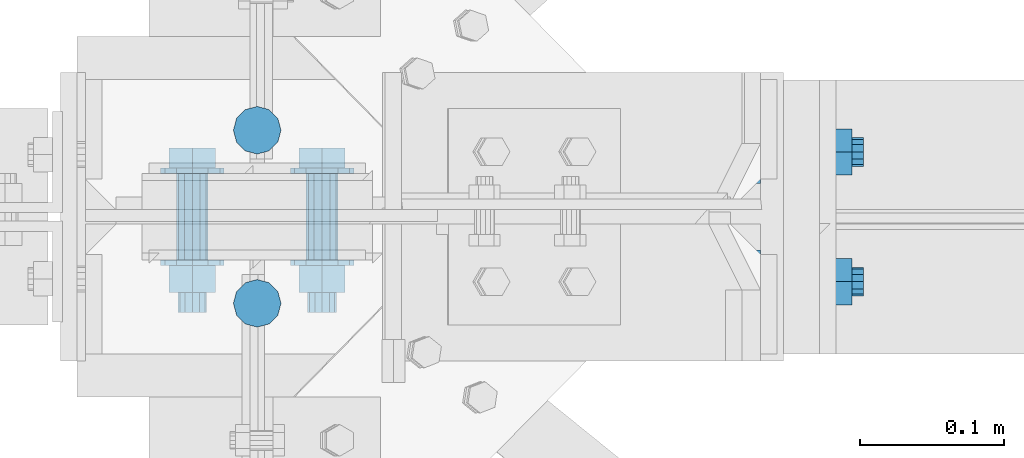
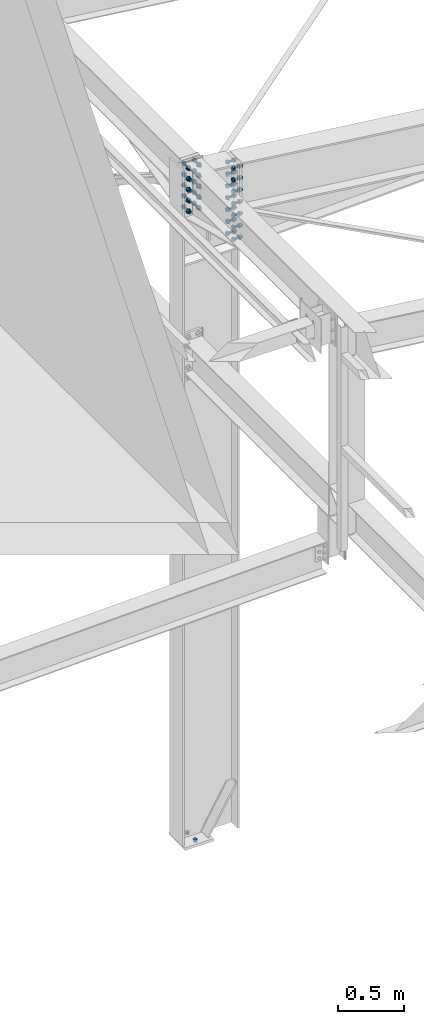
# One storey, part 93 of 3134: 3 mechanical fasteners, 3 elements without a shape of their own.
"""IFC2X3 building model written with IfcOpenShell, lengths in millimetres."""

from ifc_helpers import new_model, si_unit, frame, origin_with_axes, place, context, subcontext, project, spatial, faceted_brep, source, transform, mapped, material, type_object, element, aggregate, save


model = new_model("IFC2X3")

# Units and contexts
model_context = context("Model", 3, precision=1e-05, world=origin_with_axes())
body_context = subcontext(model_context, "Body", "Model", "MODEL_VIEW")
ifc_project = project(units=[si_unit("LENGTHUNIT", "METRE", prefix="MILLI"), si_unit("AREAUNIT", "SQUARE_METRE"), si_unit("VOLUMEUNIT", "CUBIC_METRE"), si_unit("MASSUNIT", "GRAM", prefix="KILO"), si_unit("TIMEUNIT", "SECOND"), si_unit("PLANEANGLEUNIT", "RADIAN"), si_unit("SOLIDANGLEUNIT", "STERADIAN"), si_unit("THERMODYNAMICTEMPERATUREUNIT", "DEGREE_CELSIUS"), si_unit("LUMINOUSINTENSITYUNIT", "LUMEN")], contexts=[model_context])

# Site, building, storey
site_placement = place(None, origin_with_axes())
site = spatial("IfcSite", under=ifc_project, at=site_placement, CompositionType="ELEMENT")
building_placement = place(site_placement, origin_with_axes())
building = spatial("IfcBuilding", under=site, at=building_placement, Name="Undefined", CompositionType="ELEMENT")
storey_placement = place(building_placement, origin_with_axes())
storey = spatial("IfcBuildingStorey", under=building, at=storey_placement, Name="Undefined", CompositionType="ELEMENT", Elevation=0.0)

# Assembly, mechanical fastener
assembly_1_placement = place(storey_placement, origin_with_axes())
assembly_1 = element("IfcElementAssembly", 1, at=assembly_1_placement, inside=storey, Name="IPE450", AssemblyPlace="NOTDEFINED", PredefinedType="RIGID_FRAME")
ifc_material_1 = material(Name="HR10.9")
mechanical_fastener_type = type_object("IfcMechanicalFastenerType", Name="Bolt assembly")
shared_shape_1 = source(origin_with_axes(), body_context, "Body", "Brep", [
    faceted_brep([(18.475208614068, -33.599999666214, 0.0), (9.23760430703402, -33.599999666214, 16.0), (-9.23760430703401, -33.599999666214, 16.0), (-18.475208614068, -33.599999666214, 2.2625605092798e-15), (-9.23760430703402, -33.599999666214, -16.0), (9.237604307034, -33.599999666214, -16.0), (9.237604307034, -19.7000000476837, -16.0), (-9.23760430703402, -19.7000000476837, -16.0), (-18.475208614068, -19.7000000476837, 2.2625605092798e-15), (-9.23760430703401, -19.7000000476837, 16.0), (9.23760430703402, -19.7000000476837, 16.0), (18.475208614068, -19.7000000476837, 0.0), (10.0, -19.7000000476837, 0.0), (8.66025403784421, -19.7000000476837, 5.0000000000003), (4.9999999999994, -19.7000000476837, 8.66025403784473), (-1.03633598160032e-12, -19.7000000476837, 10.0), (-5.00000000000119, -19.7000000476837, 8.6602540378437), (-8.66025403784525, -19.7000000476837, 4.99999999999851), (-10.0, -19.7000000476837, -2.07267196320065e-12), (-8.66025403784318, -19.7000000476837, -5.00000000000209), (-4.99999999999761, -19.7000000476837, -8.66025403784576), (3.09790571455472e-12, -19.7000000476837, -10.0), (5.00000000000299, -19.7000000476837, -8.66025403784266), (8.66025403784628, -19.7000000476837, -4.99999999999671), (8.66025403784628, 55.2999999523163, -4.99999999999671), (5.00000000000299, 55.2999999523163, -8.66025403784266), (3.09790571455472e-12, 55.2999999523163, -10.0), (-4.99999999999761, 55.2999999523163, -8.66025403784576), (-8.66025403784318, 55.2999999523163, -5.00000000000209), (-10.0, 55.2999999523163, -2.07267196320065e-12), (-8.66025403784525, 55.2999999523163, 4.99999999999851), (-5.00000000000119, 55.2999999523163, 8.6602540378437), (-1.03633598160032e-12, 55.2999999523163, 10.0), (4.9999999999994, 55.2999999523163, 8.66025403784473), (8.66025403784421, 55.2999999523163, 5.0000000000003), (10.0, 55.2999999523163, 0.0), (22.0, -19.7000000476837, 0.0), (19.0525588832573, -19.7000000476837, 11.0000000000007), (10.9999999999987, -19.7000000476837, 19.0525588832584), (-2.27993915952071e-12, -19.7000000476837, 22.0), (-11.0000000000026, -19.7000000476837, 19.0525588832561), (-19.0525588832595, -19.7000000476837, 10.9999999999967), (-22.0, -19.7000000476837, -4.55987831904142e-12), (-19.052558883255, -19.7000000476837, -11.0000000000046), (-10.9999999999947, -19.7000000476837, -19.0525588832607), (6.81539257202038e-12, -19.7000000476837, -22.0), (11.0000000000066, -19.7000000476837, -19.0525588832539), (19.0525588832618, -19.7000000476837, -10.9999999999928), (19.0525588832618, -16.0, -10.9999999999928), (11.0000000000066, -16.0, -19.0525588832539), (6.81539257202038e-12, -16.0, -22.0), (-10.9999999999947, -16.0, -19.0525588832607), (-19.052558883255, -16.0, -11.0000000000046), (-22.0, -16.0, -4.55987831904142e-12), (-19.0525588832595, -16.0, 10.9999999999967), (-11.0000000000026, -16.0, 19.0525588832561), (-2.27993915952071e-12, -16.0, 22.0), (10.9999999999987, -16.0, 19.0525588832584), (19.0525588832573, -16.0, 11.0000000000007), (22.0, -16.0, 0.0), (22.0, 25.0, 0.0), (19.0525588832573, 25.0, 11.0000000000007), (10.9999999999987, 25.0, 19.0525588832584), (-2.27993915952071e-12, 25.0, 22.0), (-11.0000000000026, 25.0, 19.0525588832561), (-19.0525588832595, 25.0, 10.9999999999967), (-22.0, 25.0, -4.55987831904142e-12), (-19.052558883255, 25.0, -11.0000000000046), (-10.9999999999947, 25.0, -19.0525588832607), (6.81539257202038e-12, 25.0, -22.0), (11.0000000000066, 25.0, -19.0525588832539), (19.0525588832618, 25.0, -10.9999999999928), (19.0525588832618, 28.7000000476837, -10.9999999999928), (11.0000000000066, 28.7000000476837, -19.0525588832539), (6.81539257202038e-12, 28.7000000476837, -22.0), (-10.9999999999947, 28.7000000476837, -19.0525588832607), (-19.052558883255, 28.7000000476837, -11.0000000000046), (-22.0, 28.7000000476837, -4.55987831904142e-12), (-19.0525588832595, 28.7000000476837, 10.9999999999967), (-11.0000000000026, 28.7000000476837, 19.0525588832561), (-2.27993915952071e-12, 28.7000000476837, 22.0), (10.9999999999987, 28.7000000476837, 19.0525588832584), (19.0525588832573, 28.7000000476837, 11.0000000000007), (22.0, 28.7000000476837, 0.0), (18.475208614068, 28.7000000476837, 0.0), (9.23760430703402, 28.7000000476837, 16.0), (-9.23760430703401, 28.7000000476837, 16.0), (-18.475208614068, 28.7000000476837, 2.2625605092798e-15), (-9.23760430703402, 28.7000000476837, -16.0), (9.237604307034, 28.7000000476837, -16.0), (9.237604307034, 47.2499992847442, -16.0), (-9.23760430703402, 47.2499992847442, -16.0), (-18.475208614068, 47.2499992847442, 2.2625605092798e-15), (-9.23760430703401, 47.2499992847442, 16.0), (9.23760430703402, 47.2499992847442, 16.0), (18.475208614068, 47.2499992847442, 0.0)], [[[0, 1, 2, 3, 4, 5]], [[6, 7, 8, 9, 10, 11]], [[0, 11, 10, 1]], [[1, 10, 9, 2]], [[2, 9, 8, 3]], [[3, 8, 7, 4]], [[4, 7, 6, 5]], [[5, 6, 11, 0]], [[12, 13, 14, 15, 16, 17, 18, 19, 20, 21, 22, 23]], [[24, 25, 26, 27, 28, 29, 30, 31, 32, 33, 34, 35]], [[12, 35, 34, 13]], [[13, 34, 33, 14]], [[14, 33, 32, 15]], [[15, 32, 31, 16]], [[16, 31, 30, 17]], [[17, 30, 29, 18]], [[18, 29, 28, 19]], [[19, 28, 27, 20]], [[20, 27, 26, 21]], [[21, 26, 25, 22]], [[22, 25, 24, 23]], [[23, 24, 35, 12]], [[36, 37, 38, 39, 40, 41, 42, 43, 44, 45, 46, 47]], [[48, 49, 50, 51, 52, 53, 54, 55, 56, 57, 58, 59]], [[36, 59, 58, 37]], [[37, 58, 57, 38]], [[38, 57, 56, 39]], [[39, 56, 55, 40]], [[40, 55, 54, 41]], [[41, 54, 53, 42]], [[42, 53, 52, 43]], [[43, 52, 51, 44]], [[44, 51, 50, 45]], [[45, 50, 49, 46]], [[46, 49, 48, 47]], [[47, 48, 59, 36]], [[60, 61, 62, 63, 64, 65, 66, 67, 68, 69, 70, 71]], [[72, 73, 74, 75, 76, 77, 78, 79, 80, 81, 82, 83]], [[60, 83, 82, 61]], [[61, 82, 81, 62]], [[62, 81, 80, 63]], [[63, 80, 79, 64]], [[64, 79, 78, 65]], [[65, 78, 77, 66]], [[66, 77, 76, 67]], [[67, 76, 75, 68]], [[68, 75, 74, 69]], [[69, 74, 73, 70]], [[70, 73, 72, 71]], [[71, 72, 83, 60]], [[84, 85, 86, 87, 88, 89]], [[90, 91, 92, 93, 94, 95]], [[84, 95, 94, 85]], [[85, 94, 93, 86]], [[86, 93, 92, 87]], [[87, 92, 91, 88]], [[88, 91, 90, 89]], [[89, 90, 95, 84]]]),
    faceted_brep([(11.0, -15.9, 0.0), (9.52627944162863, -15.9, 5.50000000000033), (5.49999999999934, -15.9, 9.5262794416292), (-1.13996957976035e-12, -15.9, 11.0), (-5.50000000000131, -15.9, 9.52627944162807), (-9.52627944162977, -15.9, 5.49999999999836), (-11.0, -15.9, -2.27993915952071e-12), (-9.5262794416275, -15.9, -5.5000000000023), (-5.49999999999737, -15.9, -9.52627944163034), (3.40769628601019e-12, -15.9, -11.0), (5.50000000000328, -15.9, -9.52627944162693), (9.52627944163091, -15.9, -5.49999999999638), (9.52627944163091, 0.0999999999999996, -5.49999999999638), (5.50000000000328, 0.0999999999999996, -9.52627944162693), (3.40769628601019e-12, 0.0999999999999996, -11.0), (-5.49999999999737, 0.0999999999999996, -9.52627944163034), (-9.5262794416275, 0.0999999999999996, -5.5000000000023), (-11.0, 0.0999999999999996, -2.27993915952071e-12), (-9.52627944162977, 0.0999999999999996, 5.49999999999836), (-5.50000000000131, 0.0999999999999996, 9.52627944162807), (-1.13996957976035e-12, 0.0999999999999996, 11.0), (5.49999999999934, 0.0999999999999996, 9.5262794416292), (9.52627944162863, 0.0999999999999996, 5.50000000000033), (11.0, 0.0999999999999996, 0.0), (11.0, -0.1, 0.0), (9.52627944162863, -0.1, 5.50000000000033), (5.49999999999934, -0.1, 9.5262794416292), (-1.13996957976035e-12, -0.1, 11.0), (-5.50000000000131, -0.1, 9.52627944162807), (-9.52627944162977, -0.1, 5.49999999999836), (-11.0, -0.1, -2.27993915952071e-12), (-9.5262794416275, -0.1, -5.5000000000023), (-5.49999999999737, -0.1, -9.52627944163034), (3.40769628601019e-12, -0.1, -11.0), (5.50000000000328, -0.1, -9.52627944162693), (9.52627944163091, -0.1, -5.49999999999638), (9.52627944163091, 25.0, -5.49999999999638), (5.50000000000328, 25.0, -9.52627944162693), (3.40769628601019e-12, 25.0, -11.0), (-5.49999999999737, 25.0, -9.52627944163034), (-9.5262794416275, 25.0, -5.5000000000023), (-11.0, 25.0, -2.27993915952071e-12), (-9.52627944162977, 25.0, 5.49999999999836), (-5.50000000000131, 25.0, 9.52627944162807), (-1.13996957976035e-12, 25.0, 11.0), (5.49999999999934, 25.0, 9.5262794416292), (9.52627944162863, 25.0, 5.50000000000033), (11.0, 25.0, 0.0)], [[[0, 1, 2, 3, 4, 5, 6, 7, 8, 9, 10, 11]], [[12, 13, 14, 15, 16, 17, 18, 19, 20, 21, 22, 23]], [[0, 23, 22, 1]], [[1, 22, 21, 2]], [[2, 21, 20, 3]], [[3, 20, 19, 4]], [[4, 19, 18, 5]], [[5, 18, 17, 6]], [[6, 17, 16, 7]], [[7, 16, 15, 8]], [[8, 15, 14, 9]], [[9, 14, 13, 10]], [[10, 13, 12, 11]], [[11, 12, 23, 0]], [[24, 25, 26, 27, 28, 29, 30, 31, 32, 33, 34, 35]], [[36, 37, 38, 39, 40, 41, 42, 43, 44, 45, 46, 47]], [[24, 47, 46, 25]], [[25, 46, 45, 26]], [[26, 45, 44, 27]], [[27, 44, 43, 28]], [[28, 43, 42, 29]], [[29, 42, 41, 30]], [[30, 41, 40, 31]], [[31, 40, 39, 32]], [[32, 39, 38, 33]], [[33, 38, 37, 34]], [[34, 37, 36, 35]], [[35, 36, 47, 24]]]),
])
mechanical_fastener_1_placement = place(assembly_1_placement, frame((21215.0, 19450.0, 5711.36541521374), z_axis=(0.0, -1.0, 0.0), x_axis=(0.0, 0.0, -1.0)))
mechanical_fastener_1 = element("IfcMechanicalFastener", 2, at=mechanical_fastener_1_placement, type_object=mechanical_fastener_type, material=ifc_material_1, Name="Bolt assembly", NominalDiameter=20.0, NominalLength=75.0, context=body_context, shape_type="MappedRepresentation", body=[
    mapped(shared_shape_1, transform((0.0, 0.0, -45.0))),
    mapped(shared_shape_1, transform((0.0, 0.0, 45.0))),
    mapped(shared_shape_1, transform((110.0, 0.0, -45.0))),
    mapped(shared_shape_1, transform((110.0, 0.0, 45.0))),
    mapped(shared_shape_1, transform((220.0, 0.0, -45.0))),
    mapped(shared_shape_1, transform((220.0, 0.0, 45.0))),
    mapped(shared_shape_1, transform((330.0, 0.0, -45.0))),
    mapped(shared_shape_1, transform((330.0, 0.0, 45.0))),
    mapped(shared_shape_1, transform((440.0, 0.0, -45.0))),
    mapped(shared_shape_1, transform((440.0, 0.0, 45.0))),
    mapped(shared_shape_1, transform((550.0, 0.0, -45.0))),
    mapped(shared_shape_1, transform((550.0, 0.0, 45.0))),
    mapped(shared_shape_1, transform((660.0, 0.0, -45.0))),
    mapped(shared_shape_1, transform((660.0, 0.0, 45.0))),
])
aggregate(assembly_1, [mechanical_fastener_1])

assembly_2_placement = place(storey_placement, origin_with_axes())
assembly_2 = element("IfcElementAssembly", 3, at=assembly_2_placement, inside=storey, Name="300", AssemblyPlace="NOTDEFINED", PredefinedType="RIGID_FRAME")
shared_shape_2 = source(origin_with_axes(), body_context, "Body", "Brep", [
    faceted_brep([(18.475208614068, -47.6999994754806, 0.0), (9.23760430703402, -47.6999994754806, 16.0), (-9.23760430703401, -47.6999994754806, 16.0), (-18.475208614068, -47.6999994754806, 2.2625605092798e-15), (-9.23760430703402, -47.6999994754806, -16.0), (9.237604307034, -47.6999994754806, -16.0), (9.237604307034, -33.7999998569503, -16.0), (-9.23760430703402, -33.7999998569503, -16.0), (-18.475208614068, -33.7999998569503, 2.2625605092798e-15), (-9.23760430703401, -33.7999998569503, 16.0), (9.23760430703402, -33.7999998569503, 16.0), (18.475208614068, -33.7999998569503, 0.0), (10.0, -33.7999998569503, 0.0), (8.66025403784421, -33.7999998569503, 5.0000000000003), (4.9999999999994, -33.7999998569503, 8.66025403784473), (-1.03633598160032e-12, -33.7999998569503, 10.0), (-5.00000000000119, -33.7999998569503, 8.6602540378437), (-8.66025403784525, -33.7999998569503, 4.99999999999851), (-10.0, -33.7999998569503, -2.07267196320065e-12), (-8.66025403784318, -33.7999998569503, -5.00000000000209), (-4.99999999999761, -33.7999998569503, -8.66025403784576), (3.09790571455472e-12, -33.7999998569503, -10.0), (5.00000000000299, -33.7999998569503, -8.66025403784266), (8.66025403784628, -33.7999998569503, -4.99999999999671), (8.66025403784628, 66.2000001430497, -4.99999999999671), (5.00000000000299, 66.2000001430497, -8.66025403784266), (3.09790571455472e-12, 66.2000001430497, -10.0), (-4.99999999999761, 66.2000001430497, -8.66025403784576), (-8.66025403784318, 66.2000001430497, -5.00000000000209), (-10.0, 66.2000001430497, -2.07267196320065e-12), (-8.66025403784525, 66.2000001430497, 4.99999999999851), (-5.00000000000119, 66.2000001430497, 8.6602540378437), (-1.03633598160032e-12, 66.2000001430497, 10.0), (4.9999999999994, 66.2000001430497, 8.66025403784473), (8.66025403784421, 66.2000001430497, 5.0000000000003), (10.0, 66.2000001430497, 0.0), (22.0, -33.7999998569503, 0.0), (19.0525588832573, -33.7999998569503, 11.0000000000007), (10.9999999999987, -33.7999998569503, 19.0525588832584), (-2.27993915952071e-12, -33.7999998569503, 22.0), (-11.0000000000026, -33.7999998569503, 19.0525588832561), (-19.0525588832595, -33.7999998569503, 10.9999999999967), (-22.0, -33.7999998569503, -4.55987831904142e-12), (-19.052558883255, -33.7999998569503, -11.0000000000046), (-10.9999999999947, -33.7999998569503, -19.0525588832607), (6.81539257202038e-12, -33.7999998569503, -22.0), (11.0000000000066, -33.7999998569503, -19.0525588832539), (19.0525588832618, -33.7999998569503, -10.9999999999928), (19.0525588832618, -30.0999998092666, -10.9999999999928), (11.0000000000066, -30.0999998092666, -19.0525588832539), (6.81539257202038e-12, -30.0999998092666, -22.0), (-10.9999999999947, -30.0999998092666, -19.0525588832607), (-19.052558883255, -30.0999998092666, -11.0000000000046), (-22.0, -30.0999998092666, -4.55987831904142e-12), (-19.0525588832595, -30.0999998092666, 10.9999999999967), (-11.0000000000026, -30.0999998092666, 19.0525588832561), (-2.27993915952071e-12, -30.0999998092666, 22.0), (10.9999999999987, -30.0999998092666, 19.0525588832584), (19.0525588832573, -30.0999998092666, 11.0000000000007), (22.0, -30.0999998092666, 0.0), (22.0, 30.0999999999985, 0.0), (19.0525588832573, 30.0999999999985, 11.0000000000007), (10.9999999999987, 30.0999999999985, 19.0525588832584), (-2.27993915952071e-12, 30.0999999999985, 22.0), (-11.0000000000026, 30.0999999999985, 19.0525588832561), (-19.0525588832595, 30.0999999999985, 10.9999999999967), (-22.0, 30.0999999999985, -4.55987831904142e-12), (-19.052558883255, 30.0999999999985, -11.0000000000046), (-10.9999999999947, 30.0999999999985, -19.0525588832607), (6.81539257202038e-12, 30.0999999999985, -22.0), (11.0000000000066, 30.0999999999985, -19.0525588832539), (19.0525588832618, 30.0999999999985, -10.9999999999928), (19.0525588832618, 33.8000000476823, -10.9999999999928), (11.0000000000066, 33.8000000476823, -19.0525588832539), (6.81539257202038e-12, 33.8000000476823, -22.0), (-10.9999999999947, 33.8000000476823, -19.0525588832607), (-19.052558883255, 33.8000000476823, -11.0000000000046), (-22.0, 33.8000000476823, -4.55987831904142e-12), (-19.0525588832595, 33.8000000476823, 10.9999999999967), (-11.0000000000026, 33.8000000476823, 19.0525588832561), (-2.27993915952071e-12, 33.8000000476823, 22.0), (10.9999999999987, 33.8000000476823, 19.0525588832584), (19.0525588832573, 33.8000000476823, 11.0000000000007), (22.0, 33.8000000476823, 0.0), (18.475208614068, 33.8000000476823, 0.0), (9.23760430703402, 33.8000000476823, 16.0), (-9.23760430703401, 33.8000000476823, 16.0), (-18.475208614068, 33.8000000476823, 2.2625605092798e-15), (-9.23760430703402, 33.8000000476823, -16.0), (9.237604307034, 33.8000000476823, -16.0), (9.237604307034, 52.3499992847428, -16.0), (-9.23760430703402, 52.3499992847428, -16.0), (-18.475208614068, 52.3499992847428, 2.2625605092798e-15), (-9.23760430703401, 52.3499992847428, 16.0), (9.23760430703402, 52.3499992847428, 16.0), (18.475208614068, 52.3499992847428, 0.0)], [[[0, 1, 2, 3, 4, 5]], [[6, 7, 8, 9, 10, 11]], [[0, 11, 10, 1]], [[1, 10, 9, 2]], [[2, 9, 8, 3]], [[3, 8, 7, 4]], [[4, 7, 6, 5]], [[5, 6, 11, 0]], [[12, 13, 14, 15, 16, 17, 18, 19, 20, 21, 22, 23]], [[24, 25, 26, 27, 28, 29, 30, 31, 32, 33, 34, 35]], [[12, 35, 34, 13]], [[13, 34, 33, 14]], [[14, 33, 32, 15]], [[15, 32, 31, 16]], [[16, 31, 30, 17]], [[17, 30, 29, 18]], [[18, 29, 28, 19]], [[19, 28, 27, 20]], [[20, 27, 26, 21]], [[21, 26, 25, 22]], [[22, 25, 24, 23]], [[23, 24, 35, 12]], [[36, 37, 38, 39, 40, 41, 42, 43, 44, 45, 46, 47]], [[48, 49, 50, 51, 52, 53, 54, 55, 56, 57, 58, 59]], [[36, 59, 58, 37]], [[37, 58, 57, 38]], [[38, 57, 56, 39]], [[39, 56, 55, 40]], [[40, 55, 54, 41]], [[41, 54, 53, 42]], [[42, 53, 52, 43]], [[43, 52, 51, 44]], [[44, 51, 50, 45]], [[45, 50, 49, 46]], [[46, 49, 48, 47]], [[47, 48, 59, 36]], [[60, 61, 62, 63, 64, 65, 66, 67, 68, 69, 70, 71]], [[72, 73, 74, 75, 76, 77, 78, 79, 80, 81, 82, 83]], [[60, 83, 82, 61]], [[61, 82, 81, 62]], [[62, 81, 80, 63]], [[63, 80, 79, 64]], [[64, 79, 78, 65]], [[65, 78, 77, 66]], [[66, 77, 76, 67]], [[67, 76, 75, 68]], [[68, 75, 74, 69]], [[69, 74, 73, 70]], [[70, 73, 72, 71]], [[71, 72, 83, 60]], [[84, 85, 86, 87, 88, 89]], [[90, 91, 92, 93, 94, 95]], [[84, 95, 94, 85]], [[85, 94, 93, 86]], [[86, 93, 92, 87]], [[87, 92, 91, 88]], [[88, 91, 90, 89]], [[89, 90, 95, 84]]]),
    faceted_brep([(11.0, -5.09999980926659, 0.0), (9.52627944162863, -5.09999980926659, 5.50000000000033), (5.49999999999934, -5.09999980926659, 9.5262794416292), (-1.13996957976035e-12, -5.09999980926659, 11.0), (-5.50000000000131, -5.09999980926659, 9.52627944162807), (-9.52627944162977, -5.09999980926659, 5.49999999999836), (-11.0, -5.09999980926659, -2.27993915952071e-12), (-9.5262794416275, -5.09999980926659, -5.5000000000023), (-5.49999999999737, -5.09999980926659, -9.52627944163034), (3.40769628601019e-12, -5.09999980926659, -11.0), (5.50000000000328, -5.09999980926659, -9.52627944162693), (9.52627944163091, -5.09999980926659, -5.49999999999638), (9.52627944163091, 5.09999999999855, -5.49999999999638), (5.50000000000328, 5.09999999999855, -9.52627944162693), (3.40769628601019e-12, 5.09999999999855, -11.0), (-5.49999999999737, 5.09999999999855, -9.52627944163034), (-9.5262794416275, 5.09999999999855, -5.5000000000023), (-11.0, 5.09999999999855, -2.27993915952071e-12), (-9.52627944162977, 5.09999999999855, 5.49999999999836), (-5.50000000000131, 5.09999999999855, 9.52627944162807), (-1.13996957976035e-12, 5.09999999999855, 11.0), (5.49999999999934, 5.09999999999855, 9.5262794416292), (9.52627944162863, 5.09999999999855, 5.50000000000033), (11.0, 5.09999999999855, 0.0), (11.0, -29.9999998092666, 0.0), (9.52627944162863, -29.9999998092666, 5.50000000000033), (5.49999999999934, -29.9999998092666, 9.5262794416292), (-1.13996957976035e-12, -29.9999998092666, 11.0), (-5.50000000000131, -29.9999998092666, 9.52627944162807), (-9.52627944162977, -29.9999998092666, 5.49999999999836), (-11.0, -29.9999998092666, -2.27993915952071e-12), (-9.5262794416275, -29.9999998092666, -5.5000000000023), (-5.49999999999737, -29.9999998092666, -9.52627944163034), (3.40769628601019e-12, -29.9999998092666, -11.0), (5.50000000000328, -29.9999998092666, -9.52627944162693), (9.52627944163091, -29.9999998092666, -5.49999999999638), (9.52627944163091, -4.99999980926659, -5.49999999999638), (5.50000000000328, -4.99999980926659, -9.52627944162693), (3.40769628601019e-12, -4.99999980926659, -11.0), (-5.49999999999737, -4.99999980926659, -9.52627944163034), (-9.5262794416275, -4.99999980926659, -5.5000000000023), (-11.0, -4.99999980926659, -2.27993915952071e-12), (-9.52627944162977, -4.99999980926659, 5.49999999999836), (-5.50000000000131, -4.99999980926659, 9.52627944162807), (-1.13996957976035e-12, -4.99999980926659, 11.0), (5.49999999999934, -4.99999980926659, 9.5262794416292), (9.52627944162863, -4.99999980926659, 5.50000000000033), (11.0, -4.99999980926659, 0.0), (11.0, 4.99999999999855, 0.0), (9.52627944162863, 4.99999999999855, 5.50000000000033), (5.49999999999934, 4.99999999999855, 9.5262794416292), (-1.13996957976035e-12, 4.99999999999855, 11.0), (-5.50000000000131, 4.99999999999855, 9.52627944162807), (-9.52627944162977, 4.99999999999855, 5.49999999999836), (-11.0, 4.99999999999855, -2.27993915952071e-12), (-9.5262794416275, 4.99999999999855, -5.5000000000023), (-5.49999999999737, 4.99999999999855, -9.52627944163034), (3.40769628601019e-12, 4.99999999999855, -11.0), (5.50000000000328, 4.99999999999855, -9.52627944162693), (9.52627944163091, 4.99999999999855, -5.49999999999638), (9.52627944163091, 30.0999999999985, -5.49999999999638), (5.50000000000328, 30.0999999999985, -9.52627944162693), (3.40769628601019e-12, 30.0999999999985, -11.0), (-5.49999999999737, 30.0999999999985, -9.52627944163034), (-9.5262794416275, 30.0999999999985, -5.5000000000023), (-11.0, 30.0999999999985, -2.27993915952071e-12), (-9.52627944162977, 30.0999999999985, 5.49999999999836), (-5.50000000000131, 30.0999999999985, 9.52627944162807), (-1.13996957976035e-12, 30.0999999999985, 11.0), (5.49999999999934, 30.0999999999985, 9.5262794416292), (9.52627944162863, 30.0999999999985, 5.50000000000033), (11.0, 30.0999999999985, 0.0)], [[[0, 1, 2, 3, 4, 5, 6, 7, 8, 9, 10, 11]], [[12, 13, 14, 15, 16, 17, 18, 19, 20, 21, 22, 23]], [[0, 23, 22, 1]], [[1, 22, 21, 2]], [[2, 21, 20, 3]], [[3, 20, 19, 4]], [[4, 19, 18, 5]], [[5, 18, 17, 6]], [[6, 17, 16, 7]], [[7, 16, 15, 8]], [[8, 15, 14, 9]], [[9, 14, 13, 10]], [[10, 13, 12, 11]], [[11, 12, 23, 0]], [[24, 25, 26, 27, 28, 29, 30, 31, 32, 33, 34, 35]], [[36, 37, 38, 39, 40, 41, 42, 43, 44, 45, 46, 47]], [[24, 47, 46, 25]], [[25, 46, 45, 26]], [[26, 45, 44, 27]], [[27, 44, 43, 28]], [[28, 43, 42, 29]], [[29, 42, 41, 30]], [[30, 41, 40, 31]], [[31, 40, 39, 32]], [[32, 39, 38, 33]], [[33, 38, 37, 34]], [[34, 37, 36, 35]], [[35, 36, 47, 24]], [[48, 49, 50, 51, 52, 53, 54, 55, 56, 57, 58, 59]], [[60, 61, 62, 63, 64, 65, 66, 67, 68, 69, 70, 71]], [[48, 71, 70, 49]], [[49, 70, 69, 50]], [[50, 69, 68, 51]], [[51, 68, 67, 52]], [[52, 67, 66, 53]], [[53, 66, 65, 54]], [[54, 65, 64, 55]], [[55, 64, 63, 56]], [[56, 63, 62, 57]], [[57, 62, 61, 58]], [[58, 61, 60, 59]], [[59, 60, 71, 48]]]),
])
mechanical_fastener_2_placement = place(assembly_2_placement, frame((20850.0, 19450.0000000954, 5841.5), z_axis=(-1.0, 0.0, 0.0), x_axis=(0.0, 0.0, -1.0)))
mechanical_fastener_2 = element("IfcMechanicalFastener", 4, at=mechanical_fastener_2_placement, type_object=mechanical_fastener_type, material=ifc_material_1, Name="Bolt assembly", NominalDiameter=20.0, NominalLength=100.0, context=body_context, shape_type="MappedRepresentation", body=[
    mapped(shared_shape_2, transform((0.0, 0.0, -45.0))),
    mapped(shared_shape_2, transform((100.0, 0.0, -45.0))),
    mapped(shared_shape_2, transform((200.0, 0.0, -45.0))),
    mapped(shared_shape_2, transform((300.0, 0.0, -45.0))),
    mapped(shared_shape_2, transform((400.0, 0.0, -45.0))),
    mapped(shared_shape_2, transform((0.0, 0.0, 45.0))),
    mapped(shared_shape_2, transform((100.0, 0.0, 45.0))),
    mapped(shared_shape_2, transform((200.0, 0.0, 45.0))),
    mapped(shared_shape_2, transform((300.0, 0.0, 45.0))),
    mapped(shared_shape_2, transform((400.0, 0.0, 45.0))),
])
aggregate(assembly_2, [mechanical_fastener_2])

assembly_3_placement = place(storey_placement, origin_with_axes())
assembly_3 = element("IfcElementAssembly", 5, at=assembly_3_placement, inside=storey, Name="IPE500", AssemblyPlace="NOTDEFINED", PredefinedType="RIGID_FRAME")
ifc_material_2 = material(Name="8.8")
shared_shape_3 = source(origin_with_axes(), body_context, "Body", "Brep", [
    faceted_brep([(16.5, -25.0, 0.0), (14.289419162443, -25.0, 8.25000000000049), (8.24999999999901, -25.0, 14.2894191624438), (-1.70995436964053e-12, -25.0, 16.5), (-8.25000000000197, -25.0, 14.2894191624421), (-14.2894191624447, -25.0, 8.24999999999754), (-16.5, -25.0, -3.41990873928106e-12), (-14.2894191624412, -25.0, -8.25000000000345), (-8.24999999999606, -25.0, -14.2894191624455), (5.11154442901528e-12, -25.0, -16.5), (8.25000000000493, -25.0, -14.2894191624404), (14.2894191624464, -25.0, -8.24999999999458), (14.2894191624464, 0.1, -8.24999999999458), (8.25000000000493, 0.1, -14.2894191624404), (5.11154442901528e-12, 0.1, -16.5), (-8.24999999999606, 0.1, -14.2894191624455), (-14.2894191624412, 0.1, -8.25000000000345), (-16.5, 0.1, -3.41990873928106e-12), (-14.2894191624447, 0.1, 8.24999999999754), (-8.25000000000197, 0.1, 14.2894191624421), (-1.70995436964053e-12, 0.1, 16.5), (8.24999999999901, 0.1, 14.2894191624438), (14.289419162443, 0.1, 8.25000000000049), (16.5, 0.1, 0.0)], [[[0, 1, 2, 3, 4, 5, 6, 7, 8, 9, 10, 11]], [[12, 13, 14, 15, 16, 17, 18, 19, 20, 21, 22, 23]], [[0, 23, 22, 1]], [[1, 22, 21, 2]], [[2, 21, 20, 3]], [[3, 20, 19, 4]], [[4, 19, 18, 5]], [[5, 18, 17, 6]], [[6, 17, 16, 7]], [[7, 16, 15, 8]], [[8, 15, 14, 9]], [[9, 14, 13, 10]], [[10, 13, 12, 11]], [[11, 12, 23, 0]]]),
])
mechanical_fastener_3_placement = place(assembly_3_placement, frame((21330.0, 19450.0000000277, -375.0), z_axis=(0.0, 1.0, 0.0), x_axis=(-1.0, 0.0, 0.0)))
mechanical_fastener_3 = element("IfcMechanicalFastener", 6, at=mechanical_fastener_3_placement, type_object=mechanical_fastener_type, material=ifc_material_2, Name="Bolt assembly", NominalDiameter=30.0, NominalLength=25.0, context=body_context, shape_type="MappedRepresentation", body=[
    mapped(shared_shape_3, transform((480.0, 0.0, -60.0))),
    mapped(shared_shape_3, transform((480.0, 0.0, 60.0))),
])
aggregate(assembly_3, [mechanical_fastener_3])

save(model, "model.ifc")
